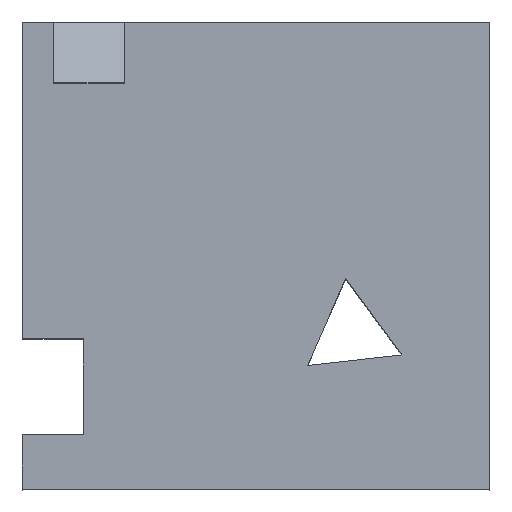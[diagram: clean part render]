
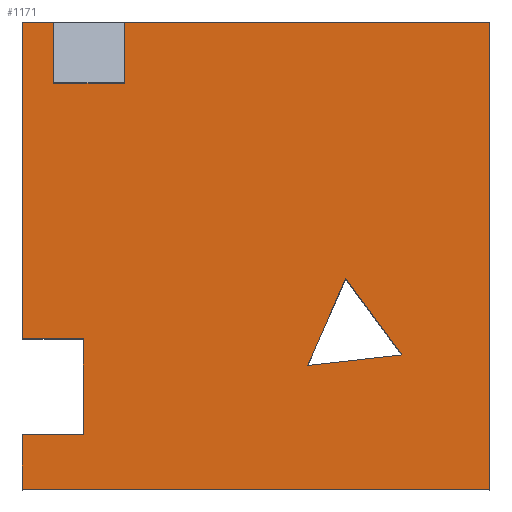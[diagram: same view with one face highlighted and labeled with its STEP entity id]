
A CAD part, top view. The second image highlights one B-rep face of the part: STEP entity #1171.
In plain terms, the highlighted planar face has unit normal (0, 0, 1).
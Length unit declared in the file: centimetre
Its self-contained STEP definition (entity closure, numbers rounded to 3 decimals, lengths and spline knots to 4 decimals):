
#19 = DIRECTION ( 'NONE',  ( 0., 1., 0. ) ) ;
#21 = LINE ( 'NONE', #498, #1291 ) ;
#31 = ORIENTED_EDGE ( 'NONE', *, *, #464, .T. ) ;
#50 = CARTESIAN_POINT ( 'NONE',  ( 691.7877, 450.8032, 1000. ) ) ;
#82 = EDGE_CURVE ( 'NONE', #183, #1457, #143, .T. ) ;
#92 = VERTEX_POINT ( 'NONE', #1195 ) ;
#111 = EDGE_CURVE ( 'NONE', #225, #159, #587, .T. ) ;
#115 = EDGE_CURVE ( 'NONE', #92, #225, #134, .T. ) ;
#120 = DIRECTION ( 'NONE',  ( 1., 0., 0. ) ) ;
#121 = CARTESIAN_POINT ( 'NONE',  ( 0., 117.0247, 1000. ) ) ;
#125 = VERTEX_POINT ( 'NONE', #461 ) ;
#134 = LINE ( 'NONE', #705, #1286 ) ;
#143 = LINE ( 'NONE', #1317, #852 ) ;
#159 = VERTEX_POINT ( 'NONE', #182 ) ;
#165 = VECTOR ( 'NONE', #371, 100. ) ;
#182 = CARTESIAN_POINT ( 'NONE',  ( 130.8232, 117.0247, 1000. ) ) ;
#183 = VERTEX_POINT ( 'NONE', #886 ) ;
#225 = VERTEX_POINT ( 'NONE', #542 ) ;
#239 = CARTESIAN_POINT ( 'NONE',  ( 0., 0., 1000. ) ) ;
#240 = DIRECTION ( 'NONE',  ( -0.593, 0.805, 0. ) ) ;
#245 = FACE_OUTER_BOUND ( 'NONE', #604, .T. ) ;
#264 = VECTOR ( 'NONE', #894, 100. ) ;
#272 = ORIENTED_EDGE ( 'NONE', *, *, #620, .F. ) ;
#280 = LINE ( 'NONE', #1224, #1410 ) ;
#292 = CARTESIAN_POINT ( 'NONE',  ( 0., 1000., 1000. ) ) ;
#313 = LINE ( 'NONE', #1480, #1508 ) ;
#346 = CARTESIAN_POINT ( 'NONE',  ( 66.8806, 868.9126, 1000. ) ) ;
#371 = DIRECTION ( 'NONE',  ( 0.994, 0.111, 0. ) ) ;
#389 = DIRECTION ( 'NONE',  ( -1., 0., 0. ) ) ;
#407 = EDGE_CURVE ( 'NONE', #1072, #183, #313, .T. ) ;
#428 = DIRECTION ( 'NONE',  ( 0., -1., 0. ) ) ;
#461 = CARTESIAN_POINT ( 'NONE',  ( 0., 117.0247, 1000. ) ) ;
#464 = EDGE_CURVE ( 'NONE', #899, #1465, #550, .T. ) ;
#470 = AXIS2_PLACEMENT_3D ( 'NONE', #239, #714, #120 ) ;
#471 = VECTOR ( 'NONE', #240, 100. ) ;
#473 = ORIENTED_EDGE ( 'NONE', *, *, #1505, .F. ) ;
#483 = LINE ( 'NONE', #853, #1533 ) ;
#498 = CARTESIAN_POINT ( 'NONE',  ( 0., 0., 1000. ) ) ;
#503 = ORIENTED_EDGE ( 'NONE', *, *, #82, .F. ) ;
#509 = ORIENTED_EDGE ( 'NONE', *, *, #115, .T. ) ;
#530 = CARTESIAN_POINT ( 'NONE',  ( 218.4426, 1000., 1000. ) ) ;
#541 = CARTESIAN_POINT ( 'NONE',  ( 691.7877, 450.8032, 1000. ) ) ;
#542 = CARTESIAN_POINT ( 'NONE',  ( 130.8232, 322.1234, 1000. ) ) ;
#550 = LINE ( 'NONE', #797, #1178 ) ;
#563 = VERTEX_POINT ( 'NONE', #1408 ) ;
#568 = CARTESIAN_POINT ( 'NONE',  ( 0., 1000., 1000. ) ) ;
#579 = ORIENTED_EDGE ( 'NONE', *, *, #600, .F. ) ;
#587 = LINE ( 'NONE', #1284, #1323 ) ;
#593 = VECTOR ( 'NONE', #821, 100. ) ;
#600 = EDGE_CURVE ( 'NONE', #1290, #1438, #721, .T. ) ;
#604 = EDGE_LOOP ( 'NONE', ( #272, #31, #1411, #509, #812, #1503, #968, #722, #1392, #837, #503, #1232 ) ) ;
#607 = DIRECTION ( 'NONE',  ( 0., -1., 0. ) ) ;
#620 = EDGE_CURVE ( 'NONE', #899, #1072, #1064, .T. ) ;
#628 = EDGE_CURVE ( 'NONE', #159, #125, #815, .T. ) ;
#632 = CARTESIAN_POINT ( 'NONE',  ( 812.0021, 287.4292, 1000. ) ) ;
#655 = LINE ( 'NONE', #541, #264 ) ;
#682 = LINE ( 'NONE', #794, #1005 ) ;
#700 = EDGE_CURVE ( 'NONE', #1465, #92, #483, .T. ) ;
#705 = CARTESIAN_POINT ( 'NONE',  ( 0., 322.1234, 1000. ) ) ;
#714 = DIRECTION ( 'NONE',  ( 0., 0., 1. ) ) ;
#720 = PLANE ( 'NONE',  #470 ) ;
#721 = LINE ( 'NONE', #1186, #471 ) ;
#722 = ORIENTED_EDGE ( 'NONE', *, *, #774, .T. ) ;
#774 = EDGE_CURVE ( 'NONE', #924, #1475, #21, .T. ) ;
#775 = VERTEX_POINT ( 'NONE', #1461 ) ;
#794 = CARTESIAN_POINT ( 'NONE',  ( 1000., 1000., 1000. ) ) ;
#797 = CARTESIAN_POINT ( 'NONE',  ( 0., 1000., 1000. ) ) ;
#812 = ORIENTED_EDGE ( 'NONE', *, *, #111, .T. ) ;
#815 = LINE ( 'NONE', #121, #593 ) ;
#821 = DIRECTION ( 'NONE',  ( -1., 0., 0. ) ) ;
#823 = EDGE_CURVE ( 'NONE', #125, #924, #1366, .T. ) ;
#824 = DIRECTION ( 'NONE',  ( 1., 0., 0. ) ) ;
#837 = ORIENTED_EDGE ( 'NONE', *, *, #1213, .T. ) ;
#852 = VECTOR ( 'NONE', #19, 100. ) ;
#853 = CARTESIAN_POINT ( 'NONE',  ( 0., 1000., 1000. ) ) ;
#872 = DIRECTION ( 'NONE',  ( 1., 0., 0. ) ) ;
#886 = CARTESIAN_POINT ( 'NONE',  ( 218.4426, 868.9126, 1000. ) ) ;
#894 = DIRECTION ( 'NONE',  ( -0.401, -0.916, 0. ) ) ;
#899 = VERTEX_POINT ( 'NONE', #1230 ) ;
#900 = DIRECTION ( 'NONE',  ( 0., 1., 0. ) ) ;
#906 = ORIENTED_EDGE ( 'NONE', *, *, #1152, .F. ) ;
#922 = CARTESIAN_POINT ( 'NONE',  ( 1000., 0., 1000. ) ) ;
#924 = VERTEX_POINT ( 'NONE', #1278 ) ;
#928 = DIRECTION ( 'NONE',  ( 0., -1., 0. ) ) ;
#937 = VECTOR ( 'NONE', #928, 100. ) ;
#968 = ORIENTED_EDGE ( 'NONE', *, *, #823, .T. ) ;
#1005 = VECTOR ( 'NONE', #900, 100. ) ;
#1039 = FACE_BOUND ( 'NONE', #1155, .T. ) ;
#1042 = DIRECTION ( 'NONE',  ( 0., -1., 0. ) ) ;
#1064 = LINE ( 'NONE', #346, #937 ) ;
#1072 = VERTEX_POINT ( 'NONE', #1434 ) ;
#1152 = EDGE_CURVE ( 'NONE', #563, #1290, #1300, .T. ) ;
#1155 = EDGE_LOOP ( 'NONE', ( #579, #906, #473 ) ) ;
#1171 = ADVANCED_FACE ( 'NONE', ( #245, #1039 ), #720, .T. ) ;
#1178 = VECTOR ( 'NONE', #1499, 100. ) ;
#1186 = CARTESIAN_POINT ( 'NONE',  ( 812.0021, 287.4292, 1000. ) ) ;
#1195 = CARTESIAN_POINT ( 'NONE',  ( 0., 322.1234, 1000. ) ) ;
#1213 = EDGE_CURVE ( 'NONE', #775, #1457, #280, .T. ) ;
#1224 = CARTESIAN_POINT ( 'NONE',  ( 0., 1000., 1000. ) ) ;
#1230 = CARTESIAN_POINT ( 'NONE',  ( 66.8806, 1000., 1000. ) ) ;
#1232 = ORIENTED_EDGE ( 'NONE', *, *, #407, .F. ) ;
#1278 = CARTESIAN_POINT ( 'NONE',  ( 0., 0., 1000. ) ) ;
#1284 = CARTESIAN_POINT ( 'NONE',  ( 130.8232, 117.0247, 1000. ) ) ;
#1286 = VECTOR ( 'NONE', #824, 100. ) ;
#1290 = VERTEX_POINT ( 'NONE', #632 ) ;
#1291 = VECTOR ( 'NONE', #872, 100. ) ;
#1300 = LINE ( 'NONE', #1307, #165 ) ;
#1307 = CARTESIAN_POINT ( 'NONE',  ( 610.4089, 265.0075, 1000. ) ) ;
#1317 = CARTESIAN_POINT ( 'NONE',  ( 218.4426, 868.9126, 1000. ) ) ;
#1323 = VECTOR ( 'NONE', #1042, 100. ) ;
#1329 = EDGE_CURVE ( 'NONE', #1475, #775, #682, .T. ) ;
#1331 = VECTOR ( 'NONE', #428, 100. ) ;
#1366 = LINE ( 'NONE', #292, #1331 ) ;
#1392 = ORIENTED_EDGE ( 'NONE', *, *, #1329, .T. ) ;
#1394 = DIRECTION ( 'NONE',  ( 1., 0., 0. ) ) ;
#1408 = CARTESIAN_POINT ( 'NONE',  ( 610.4089, 265.0075, 1000. ) ) ;
#1410 = VECTOR ( 'NONE', #389, 100. ) ;
#1411 = ORIENTED_EDGE ( 'NONE', *, *, #700, .T. ) ;
#1434 = CARTESIAN_POINT ( 'NONE',  ( 66.8806, 868.9126, 1000. ) ) ;
#1438 = VERTEX_POINT ( 'NONE', #50 ) ;
#1457 = VERTEX_POINT ( 'NONE', #530 ) ;
#1461 = CARTESIAN_POINT ( 'NONE',  ( 1000., 1000., 1000. ) ) ;
#1465 = VERTEX_POINT ( 'NONE', #568 ) ;
#1475 = VERTEX_POINT ( 'NONE', #922 ) ;
#1480 = CARTESIAN_POINT ( 'NONE',  ( 66.8806, 868.9126, 1000. ) ) ;
#1499 = DIRECTION ( 'NONE',  ( -1., 0., 0. ) ) ;
#1503 = ORIENTED_EDGE ( 'NONE', *, *, #628, .T. ) ;
#1505 = EDGE_CURVE ( 'NONE', #1438, #563, #655, .T. ) ;
#1508 = VECTOR ( 'NONE', #1394, 100. ) ;
#1533 = VECTOR ( 'NONE', #607, 100. ) ;
